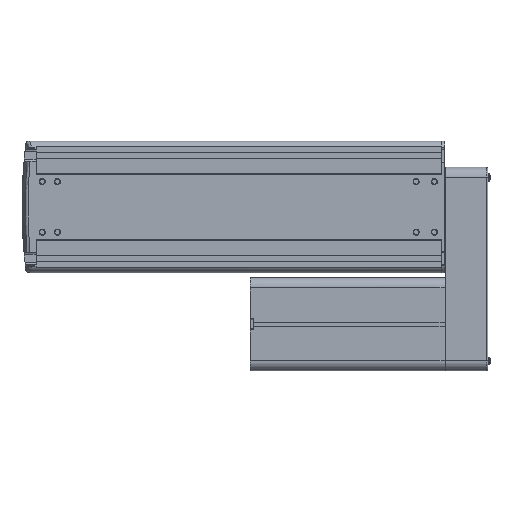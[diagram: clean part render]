
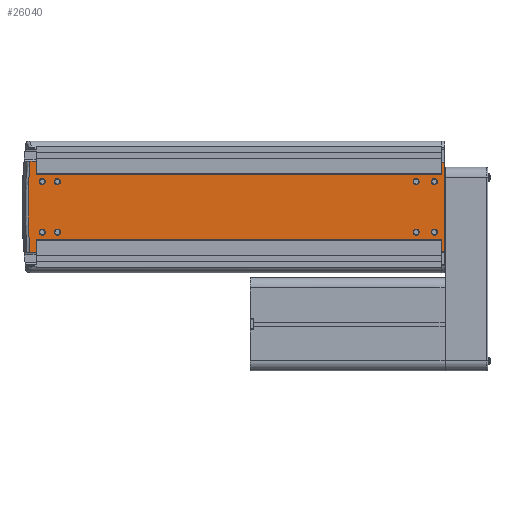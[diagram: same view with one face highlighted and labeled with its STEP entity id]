
A CAD part, front view. The second image highlights one B-rep face of the part: STEP entity #26040.
In plain terms, the highlighted planar face has unit normal (0, -1, 0).
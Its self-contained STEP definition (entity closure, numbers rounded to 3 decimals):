
#3484=CARTESIAN_POINT('',(-394.,1.5,-25.));
#3485=DIRECTION('',(0.,1.,0.));
#3486=DIRECTION('',(1.,0.,0.));
#3487=AXIS2_PLACEMENT_3D('',#3484,#3485,#3486);
#3489=CARTESIAN_POINT('',(-394.,1.5,-25.));
#3490=DIRECTION('',(0.,1.,0.));
#3491=DIRECTION('',(-1.,0.,0.));
#3492=AXIS2_PLACEMENT_3D('',#3489,#3490,#3491);
#3494=CARTESIAN_POINT('',(-394.,1.5,25.));
#3495=DIRECTION('',(0.,1.,0.));
#3496=DIRECTION('',(1.,0.,0.));
#3497=AXIS2_PLACEMENT_3D('',#3494,#3495,#3496);
#3499=CARTESIAN_POINT('',(-394.,1.5,25.));
#3500=DIRECTION('',(0.,1.,0.));
#3501=DIRECTION('',(-1.,0.,0.));
#3502=AXIS2_PLACEMENT_3D('',#3499,#3500,#3501);
#3504=CARTESIAN_POINT('',(-379.,1.5,-25.));
#3505=DIRECTION('',(0.,1.,0.));
#3506=DIRECTION('',(1.,0.,0.));
#3507=AXIS2_PLACEMENT_3D('',#3504,#3505,#3506);
#3509=CARTESIAN_POINT('',(-379.,1.5,-25.));
#3510=DIRECTION('',(0.,1.,0.));
#3511=DIRECTION('',(-1.,0.,0.));
#3512=AXIS2_PLACEMENT_3D('',#3509,#3510,#3511);
#3514=CARTESIAN_POINT('',(-379.,1.5,25.));
#3515=DIRECTION('',(0.,1.,0.));
#3516=DIRECTION('',(1.,0.,0.));
#3517=AXIS2_PLACEMENT_3D('',#3514,#3515,#3516);
#3519=CARTESIAN_POINT('',(-379.,1.5,25.));
#3520=DIRECTION('',(0.,1.,0.));
#3521=DIRECTION('',(-1.,0.,0.));
#3522=AXIS2_PLACEMENT_3D('',#3519,#3520,#3521);
#3524=CARTESIAN_POINT('',(-7.,1.5,-25.));
#3525=DIRECTION('',(0.,1.,0.));
#3526=DIRECTION('',(1.,0.,0.));
#3527=AXIS2_PLACEMENT_3D('',#3524,#3525,#3526);
#3529=CARTESIAN_POINT('',(-7.,1.5,-25.));
#3530=DIRECTION('',(0.,1.,0.));
#3531=DIRECTION('',(-1.,0.,0.));
#3532=AXIS2_PLACEMENT_3D('',#3529,#3530,#3531);
#3534=CARTESIAN_POINT('',(-7.,1.5,25.));
#3535=DIRECTION('',(0.,1.,0.));
#3536=DIRECTION('',(1.,0.,0.));
#3537=AXIS2_PLACEMENT_3D('',#3534,#3535,#3536);
#3539=CARTESIAN_POINT('',(-7.,1.5,25.));
#3540=DIRECTION('',(0.,1.,0.));
#3541=DIRECTION('',(-1.,0.,0.));
#3542=AXIS2_PLACEMENT_3D('',#3539,#3540,#3541);
#3544=CARTESIAN_POINT('',(-25.,1.5,-25.));
#3545=DIRECTION('',(0.,1.,0.));
#3546=DIRECTION('',(1.,0.,0.));
#3547=AXIS2_PLACEMENT_3D('',#3544,#3545,#3546);
#3549=CARTESIAN_POINT('',(-25.,1.5,-25.));
#3550=DIRECTION('',(0.,1.,0.));
#3551=DIRECTION('',(-1.,0.,0.));
#3552=AXIS2_PLACEMENT_3D('',#3549,#3550,#3551);
#3554=CARTESIAN_POINT('',(-25.,1.5,25.));
#3555=DIRECTION('',(0.,1.,0.));
#3556=DIRECTION('',(1.,0.,0.));
#3557=AXIS2_PLACEMENT_3D('',#3554,#3555,#3556);
#3559=CARTESIAN_POINT('',(-25.,1.5,25.));
#3560=DIRECTION('',(0.,1.,0.));
#3561=DIRECTION('',(-1.,0.,0.));
#3562=AXIS2_PLACEMENT_3D('',#3559,#3560,#3561);
#3564=CARTESIAN_POINT('',(86.,1.5,0.));
#3565=DIRECTION('',(0.,-1.,0.));
#3566=DIRECTION('',(-0.996,0.,0.091));
#3567=AXIS2_PLACEMENT_3D('',#3564,#3565,#3566);
#3569=DIRECTION('',(-1.,0.,0.));
#3570=VECTOR('',#3569,400.);
#3571=CARTESIAN_POINT('',(0.,1.5,32.));
#3572=LINE('',#3571,#3570);
#3573=DIRECTION('',(0.,0.,1.));
#3574=VECTOR('',#3573,88.);
#3575=CARTESIAN_POINT('',(3.,1.5,-44.));
#3576=LINE('',#3575,#3574);
#4146=DIRECTION('',(0.,0.,-1.));
#4147=VECTOR('',#4146,13.);
#4148=CARTESIAN_POINT('',(-400.,1.5,45.));
#4149=LINE('',#4148,#4147);
#4207=DIRECTION('',(0.,0.,-1.));
#4208=VECTOR('',#4207,13.);
#4209=CARTESIAN_POINT('',(-400.,1.5,-32.));
#4210=LINE('',#4209,#4208);
#4554=DIRECTION('',(0.,0.,1.));
#4555=VECTOR('',#4554,12.);
#4556=CARTESIAN_POINT('',(0.,1.5,32.));
#4557=LINE('',#4556,#4555);
#4606=DIRECTION('',(0.,0.,1.));
#4607=VECTOR('',#4606,12.);
#4608=CARTESIAN_POINT('',(0.,1.5,-44.));
#4609=LINE('',#4608,#4607);
#5107=DIRECTION('',(-1.,0.,0.));
#5108=VECTOR('',#5107,6.147);
#5109=CARTESIAN_POINT('',(-400.,1.5,45.));
#5110=LINE('',#5109,#5108);
#5137=DIRECTION('',(1.,0.,0.));
#5138=VECTOR('',#5137,6.147);
#5139=CARTESIAN_POINT('',(-406.147,1.5,-45.));
#5140=LINE('',#5139,#5138);
#12411=DIRECTION('',(1.,0.,0.));
#12412=VECTOR('',#12411,3.);
#12413=CARTESIAN_POINT('',(0.,1.5,-44.));
#12414=LINE('',#12413,#12412);
#12751=DIRECTION('',(-1.,0.,0.));
#12752=VECTOR('',#12751,400.);
#12753=CARTESIAN_POINT('',(0.,1.5,-32.));
#12754=LINE('',#12753,#12752);
#12783=DIRECTION('',(-1.,0.,0.));
#12784=VECTOR('',#12783,3.);
#12785=CARTESIAN_POINT('',(3.,1.5,44.));
#12786=LINE('',#12785,#12784);
#17017=CARTESIAN_POINT('',(3.,1.5,44.));
#17018=VERTEX_POINT('',#17017);
#17019=CARTESIAN_POINT('',(3.,1.5,-44.));
#17020=VERTEX_POINT('',#17019);
#17785=CARTESIAN_POINT('',(-406.147,1.5,45.));
#17786=CARTESIAN_POINT('',(-406.147,1.5,-45.));
#17787=VERTEX_POINT('',#17785);
#17788=VERTEX_POINT('',#17786);
#18604=CARTESIAN_POINT('',(-391.5,1.5,-25.));
#18605=CARTESIAN_POINT('',(-396.5,1.5,-25.));
#18606=VERTEX_POINT('',#18604);
#18607=VERTEX_POINT('',#18605);
#18608=CARTESIAN_POINT('',(-391.5,1.5,25.));
#18609=CARTESIAN_POINT('',(-396.5,1.5,25.));
#18610=VERTEX_POINT('',#18608);
#18611=VERTEX_POINT('',#18609);
#18612=CARTESIAN_POINT('',(-376.5,1.5,-25.));
#18613=CARTESIAN_POINT('',(-381.5,1.5,-25.));
#18614=VERTEX_POINT('',#18612);
#18615=VERTEX_POINT('',#18613);
#18616=CARTESIAN_POINT('',(-376.5,1.5,25.));
#18617=CARTESIAN_POINT('',(-381.5,1.5,25.));
#18618=VERTEX_POINT('',#18616);
#18619=VERTEX_POINT('',#18617);
#18620=CARTESIAN_POINT('',(-4.5,1.5,-25.));
#18621=CARTESIAN_POINT('',(-9.5,1.5,-25.));
#18622=VERTEX_POINT('',#18620);
#18623=VERTEX_POINT('',#18621);
#18624=CARTESIAN_POINT('',(-4.5,1.5,25.));
#18625=CARTESIAN_POINT('',(-9.5,1.5,25.));
#18626=VERTEX_POINT('',#18624);
#18627=VERTEX_POINT('',#18625);
#18628=CARTESIAN_POINT('',(-22.5,1.5,-25.));
#18629=CARTESIAN_POINT('',(-27.5,1.5,-25.));
#18630=VERTEX_POINT('',#18628);
#18631=VERTEX_POINT('',#18629);
#18632=CARTESIAN_POINT('',(-22.5,1.5,25.));
#18633=CARTESIAN_POINT('',(-27.5,1.5,25.));
#18634=VERTEX_POINT('',#18632);
#18635=VERTEX_POINT('',#18633);
#19565=CARTESIAN_POINT('',(0.,1.5,-44.));
#19566=VERTEX_POINT('',#19565);
#19567=CARTESIAN_POINT('',(0.,1.5,-32.));
#19568=VERTEX_POINT('',#19567);
#19569=CARTESIAN_POINT('',(0.,1.5,32.));
#19570=CARTESIAN_POINT('',(0.,1.5,44.));
#19571=VERTEX_POINT('',#19569);
#19572=VERTEX_POINT('',#19570);
#20021=CARTESIAN_POINT('',(-400.,1.5,45.));
#20022=CARTESIAN_POINT('',(-400.,1.5,32.));
#20023=VERTEX_POINT('',#20021);
#20024=VERTEX_POINT('',#20022);
#20025=CARTESIAN_POINT('',(-400.,1.5,-32.));
#20026=CARTESIAN_POINT('',(-400.,1.5,-45.));
#20027=VERTEX_POINT('',#20025);
#20028=VERTEX_POINT('',#20026);
#25962=CARTESIAN_POINT('',(-200.,1.5,0.));
#25963=DIRECTION('',(0.,1.,0.));
#25964=DIRECTION('',(0.,0.,-1.));
#25965=AXIS2_PLACEMENT_3D('',#25962,#25963,#25964);
#25966=PLANE('',#25965);
#25968=ORIENTED_EDGE('',*,*,#25967,.T.);
#25970=ORIENTED_EDGE('',*,*,#25969,.T.);
#25972=ORIENTED_EDGE('',*,*,#25971,.F.);
#25974=ORIENTED_EDGE('',*,*,#25973,.F.);
#25976=ORIENTED_EDGE('',*,*,#25975,.F.);
#25978=ORIENTED_EDGE('',*,*,#25977,.T.);
#25980=ORIENTED_EDGE('',*,*,#25979,.F.);
#25982=ORIENTED_EDGE('',*,*,#25981,.T.);
#25984=ORIENTED_EDGE('',*,*,#25983,.F.);
#25986=ORIENTED_EDGE('',*,*,#25985,.F.);
#25988=ORIENTED_EDGE('',*,*,#25987,.F.);
#25990=ORIENTED_EDGE('',*,*,#25989,.T.);
#25991=EDGE_LOOP('',(#25968,#25970,#25972,#25974,#25976,#25978,#25980,#25982,
#25984,#25986,#25988,#25990));
#25992=FACE_OUTER_BOUND('',#25991,.F.);
#25993=ORIENTED_EDGE('',*,*,#25952,.F.);
#25995=ORIENTED_EDGE('',*,*,#25994,.F.);
#25996=EDGE_LOOP('',(#25993,#25995));
#25997=FACE_BOUND('',#25996,.F.);
#25999=ORIENTED_EDGE('',*,*,#25998,.F.);
#26001=ORIENTED_EDGE('',*,*,#26000,.F.);
#26002=EDGE_LOOP('',(#25999,#26001));
#26003=FACE_BOUND('',#26002,.F.);
#26005=ORIENTED_EDGE('',*,*,#26004,.F.);
#26007=ORIENTED_EDGE('',*,*,#26006,.F.);
#26008=EDGE_LOOP('',(#26005,#26007));
#26009=FACE_BOUND('',#26008,.F.);
#26011=ORIENTED_EDGE('',*,*,#26010,.F.);
#26013=ORIENTED_EDGE('',*,*,#26012,.F.);
#26014=EDGE_LOOP('',(#26011,#26013));
#26015=FACE_BOUND('',#26014,.F.);
#26017=ORIENTED_EDGE('',*,*,#26016,.F.);
#26019=ORIENTED_EDGE('',*,*,#26018,.F.);
#26020=EDGE_LOOP('',(#26017,#26019));
#26021=FACE_BOUND('',#26020,.F.);
#26023=ORIENTED_EDGE('',*,*,#26022,.F.);
#26025=ORIENTED_EDGE('',*,*,#26024,.F.);
#26026=EDGE_LOOP('',(#26023,#26025));
#26027=FACE_BOUND('',#26026,.F.);
#26029=ORIENTED_EDGE('',*,*,#26028,.F.);
#26031=ORIENTED_EDGE('',*,*,#26030,.F.);
#26032=EDGE_LOOP('',(#26029,#26031));
#26033=FACE_BOUND('',#26032,.F.);
#26035=ORIENTED_EDGE('',*,*,#26034,.F.);
#26037=ORIENTED_EDGE('',*,*,#26036,.F.);
#26038=EDGE_LOOP('',(#26035,#26037));
#26039=FACE_BOUND('',#26038,.F.);
#26040=ADVANCED_FACE('',(#25992,#25997,#26003,#26009,#26015,#26021,#26027,
#26033,#26039),#25966,.F.);
#3488=CIRCLE('',#3487,2.5);
#3493=CIRCLE('',#3492,2.5);
#3498=CIRCLE('',#3497,2.5);
#3503=CIRCLE('',#3502,2.5);
#3508=CIRCLE('',#3507,2.5);
#3513=CIRCLE('',#3512,2.5);
#3518=CIRCLE('',#3517,2.5);
#3523=CIRCLE('',#3522,2.5);
#3528=CIRCLE('',#3527,2.5);
#3533=CIRCLE('',#3532,2.5);
#3538=CIRCLE('',#3537,2.5);
#3543=CIRCLE('',#3542,2.5);
#3548=CIRCLE('',#3547,2.5);
#3553=CIRCLE('',#3552,2.5);
#3558=CIRCLE('',#3557,2.5);
#3563=CIRCLE('',#3562,2.5);
#3568=CIRCLE('',#3567,494.2);
#25952=EDGE_CURVE('',#18610,#18611,#3498,.T.);
#25967=EDGE_CURVE('',#19568,#20027,#12754,.T.);
#25969=EDGE_CURVE('',#20027,#20028,#4210,.T.);
#25971=EDGE_CURVE('',#17788,#20028,#5140,.T.);
#25973=EDGE_CURVE('',#17787,#17788,#3568,.T.);
#25975=EDGE_CURVE('',#20023,#17787,#5110,.T.);
#25977=EDGE_CURVE('',#20023,#20024,#4149,.T.);
#25979=EDGE_CURVE('',#19571,#20024,#3572,.T.);
#25981=EDGE_CURVE('',#19571,#19572,#4557,.T.);
#25983=EDGE_CURVE('',#17018,#19572,#12786,.T.);
#25985=EDGE_CURVE('',#17020,#17018,#3576,.T.);
#25987=EDGE_CURVE('',#19566,#17020,#12414,.T.);
#25989=EDGE_CURVE('',#19566,#19568,#4609,.T.);
#25994=EDGE_CURVE('',#18611,#18610,#3503,.T.);
#25998=EDGE_CURVE('',#18614,#18615,#3508,.T.);
#26000=EDGE_CURVE('',#18615,#18614,#3513,.T.);
#26004=EDGE_CURVE('',#18618,#18619,#3518,.T.);
#26006=EDGE_CURVE('',#18619,#18618,#3523,.T.);
#26010=EDGE_CURVE('',#18622,#18623,#3528,.T.);
#26012=EDGE_CURVE('',#18623,#18622,#3533,.T.);
#26016=EDGE_CURVE('',#18626,#18627,#3538,.T.);
#26018=EDGE_CURVE('',#18627,#18626,#3543,.T.);
#26022=EDGE_CURVE('',#18630,#18631,#3548,.T.);
#26024=EDGE_CURVE('',#18631,#18630,#3553,.T.);
#26028=EDGE_CURVE('',#18634,#18635,#3558,.T.);
#26030=EDGE_CURVE('',#18635,#18634,#3563,.T.);
#26034=EDGE_CURVE('',#18606,#18607,#3488,.T.);
#26036=EDGE_CURVE('',#18607,#18606,#3493,.T.);
